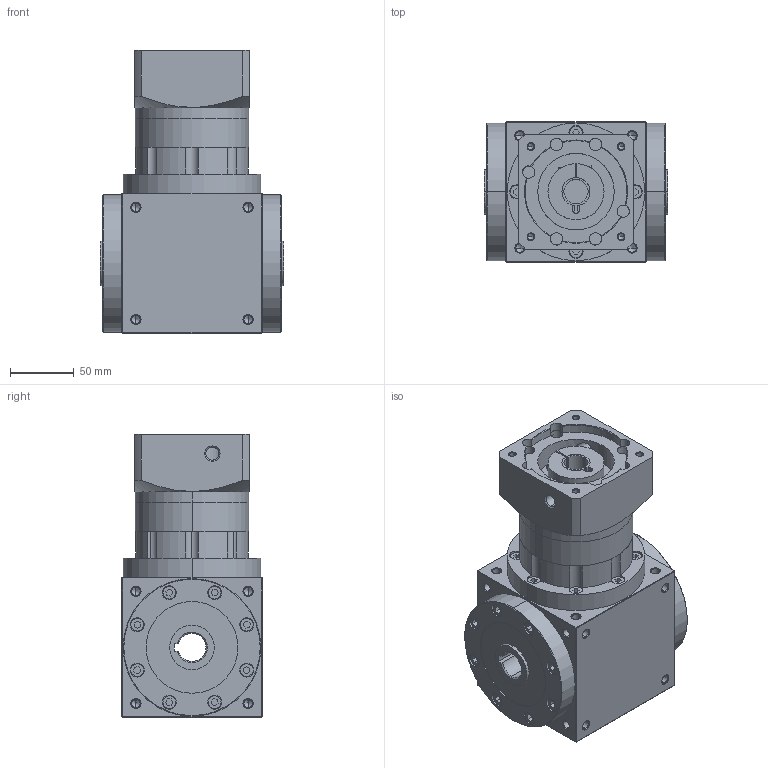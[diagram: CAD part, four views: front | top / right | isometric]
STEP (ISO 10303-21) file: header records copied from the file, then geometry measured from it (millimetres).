
FILE_DESCRIPTION (( 'STEP AP203' ), '1' );
FILE_NAME ('AT120-FH-L2-19-80-100M6.STEP', '2025-08-14T06:09:14', ( 'Windows User' ), ( 'P R C' ), 'SwSTEP 2.0', 'SolidWorks 2016', '' );
FILE_SCHEMA (( 'CONFIG_CONTROL_DESIGN' ));
Length unit declared in the file: millimetre
Products named in the file (6): AT120-单级齿圈; 输入胀套-22; AT120-输入法兰-C-80-M6-100; AT120-FH-L2-19-80-100M6; AT120-蛌褒眊极-謂怀堤; AT120-怀堤楊擘-蠶講
Assembly tree (5 placements, depth 2):
  AT120-FH-L2-19-80-100M6
    AT120-蛌褒眊极-謂怀堤
    AT120-怀堤楊擘-蠶講
    AT120-单级齿圈
    输入胀套-22
    AT120-输入法兰-C-80-M6-100
Bounding box: 144 x 110 x 222 mm (x, y, z)
Volume: 1687764.6 mm3; surface area: 274757.2 mm2
Topology: 5 solids, 17 shells, 1556 faces, 4039 edges, 2576 vertices
Faces by surface type: plane 789, cylinder 372, cone 230, bspline 165
Entity records: 55188 total; most frequent: CARTESIAN_POINT 17989, ORIENTED_EDGE 7902, DIRECTION 6985, EDGE_CURVE 3951, VERTEX_POINT 2576, VECTOR 2503, LINE 2503, AXIS2_PLACEMENT_3D 2241
